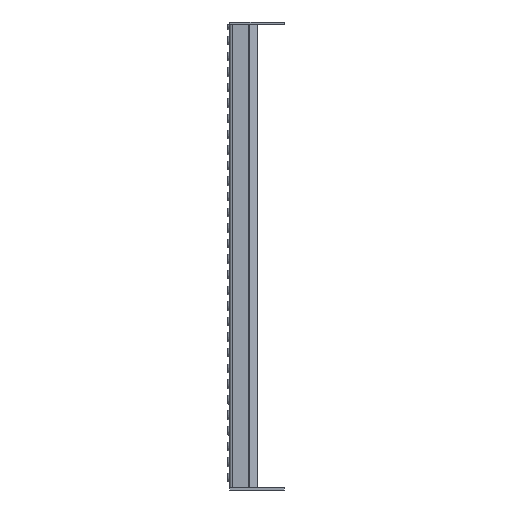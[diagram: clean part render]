
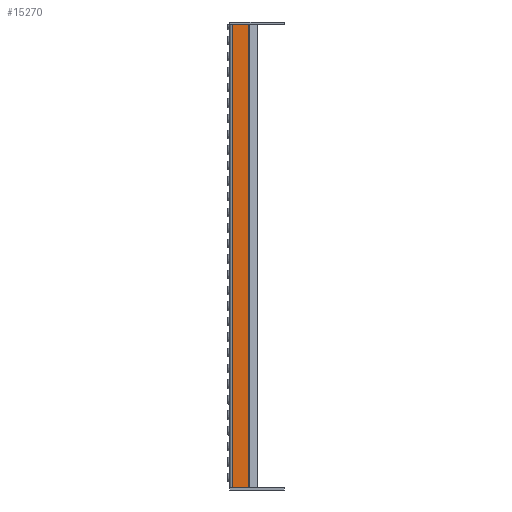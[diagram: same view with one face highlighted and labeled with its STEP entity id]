
A CAD part, left-side view. The second image highlights one B-rep face of the part: STEP entity #15270.
In plain terms, the highlighted planar face has unit normal (-1, 0, 0).
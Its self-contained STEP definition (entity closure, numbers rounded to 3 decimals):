
#1853=FACE_OUTER_BOUND('',#2900,.T.);
#2900=EDGE_LOOP('',(#12665,#12666,#12667,#12668));
#4043=LINE('',#28282,#5655);
#4054=LINE('',#28312,#5666);
#4064=LINE('',#28335,#5676);
#4071=LINE('',#28350,#5683);
#5655=VECTOR('',#19800,10.);
#5666=VECTOR('',#19825,10.);
#5676=VECTOR('',#19847,10.);
#5683=VECTOR('',#19866,10.);
#7300=VERTEX_POINT('',#28279);
#7301=VERTEX_POINT('',#28281);
#7313=VERTEX_POINT('',#28311);
#7320=VERTEX_POINT('',#28334);
#9145=EDGE_CURVE('',#7301,#7300,#4043,.T.);
#9160=EDGE_CURVE('',#7300,#7313,#4054,.T.);
#9172=EDGE_CURVE('',#7320,#7301,#4064,.T.);
#9180=EDGE_CURVE('',#7313,#7320,#4071,.T.);
#12665=ORIENTED_EDGE('',*,*,#9160,.T.);
#12666=ORIENTED_EDGE('',*,*,#9180,.T.);
#12667=ORIENTED_EDGE('',*,*,#9172,.T.);
#12668=ORIENTED_EDGE('',*,*,#9145,.T.);
#14325=PLANE('',#16667);
#15270=ADVANCED_FACE('',(#1853),#14325,.T.);
#16667=AXIS2_PLACEMENT_3D('',#28351,#19867,#19868);
#19800=DIRECTION('',(0.,1.,0.));
#19825=DIRECTION('',(0.,0.,-1.));
#19847=DIRECTION('',(0.,0.,1.));
#19866=DIRECTION('',(0.,-1.,0.));
#19867=DIRECTION('center_axis',(-1.,0.,0.));
#19868=DIRECTION('ref_axis',(0.,0.,1.));
#28279=CARTESIAN_POINT('',(0.,-3.25,594.));
#28281=CARTESIAN_POINT('',(0.,-24.427,594.));
#28282=CARTESIAN_POINT('',(0.,0.,594.));
#28311=CARTESIAN_POINT('',(0.,-3.25,0.));
#28312=CARTESIAN_POINT('',(0.,-3.25,0.));
#28334=CARTESIAN_POINT('',(0.,-24.427,0.));
#28335=CARTESIAN_POINT('',(0.,-24.427,148.5));
#28350=CARTESIAN_POINT('',(0.,0.,0.));
#28351=CARTESIAN_POINT('Origin',(0.,-25.,0.));
